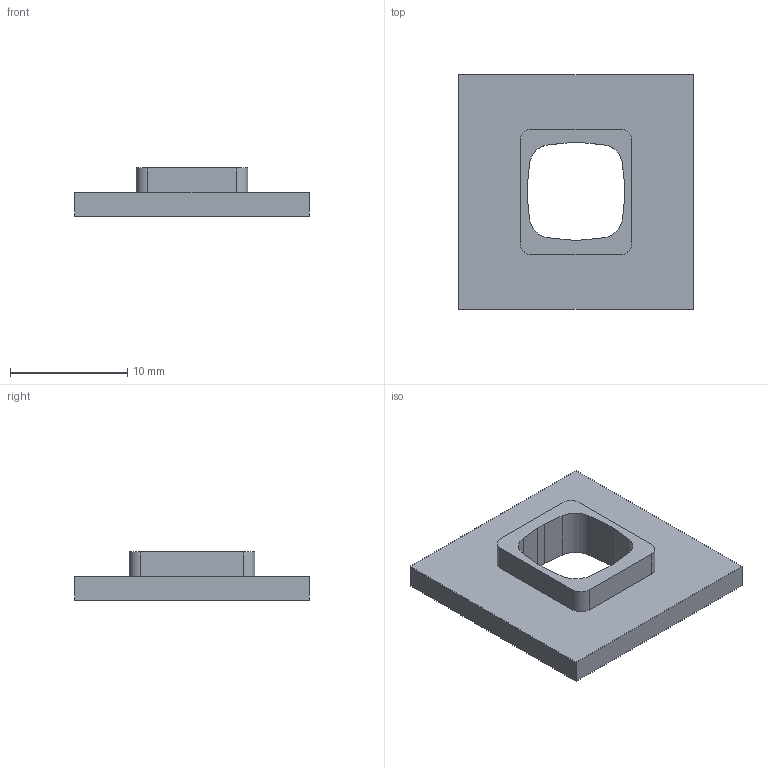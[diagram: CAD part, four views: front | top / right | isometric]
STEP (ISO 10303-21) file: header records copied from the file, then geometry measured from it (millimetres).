
FILE_DESCRIPTION(('HOOPS Exchange Step'),'2;1');
FILE_NAME('/private/var/mobile/Containers/Data/Application/B780345A-D480-43F2-B0AC-BE92C94771E0/tmp/export/temp_export','2025-11-24T10:43:29+08:00',('mobile'),('Shapr3D Limited'),'HOOPS Exchange 2025.5','Shapr3D','Authorized');
FILE_SCHEMA( ('AP242_MANAGED_MODEL_BASED_3D_ENGINEERING_MIM_LF {1 0 10303 442 1 1 4}') );
Length unit declared in the file: millimetre
Products named in the file (3): 9981上盖.STEP; 9900光学导航板槽.step; root
Assembly tree (2 placements, depth 3):
  root
    9900光学导航板槽.step
      9981上盖.STEP
Bounding box: 20 x 20 x 4.1 mm (x, y, z)
Volume: 756.6 mm3; surface area: 1034.6 mm2
Topology: 1 solids, 1 shells, 31 faces, 84 edges, 56 vertices
Faces by surface type: plane 23, cylinder 8
Entity records: 1076 total; most frequent: CARTESIAN_POINT 177, DIRECTION 174, ORIENTED_EDGE 168, EDGE_CURVE 84, VECTOR 68, LINE 68, VERTEX_POINT 56, AXIS2_PLACEMENT_3D 53
